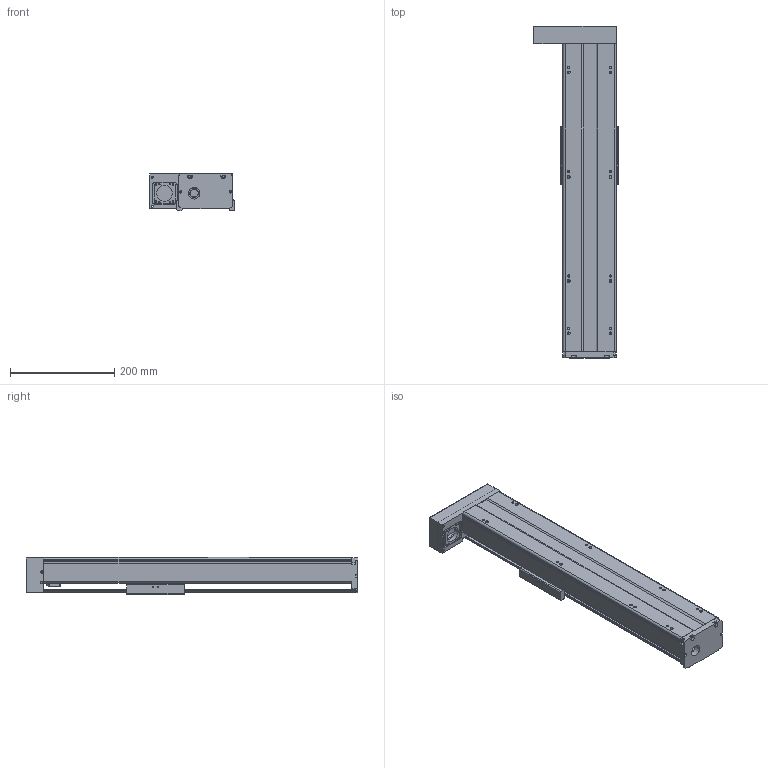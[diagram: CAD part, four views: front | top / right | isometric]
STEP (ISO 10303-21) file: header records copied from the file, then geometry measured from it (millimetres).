
FILE_DESCRIPTION(/* description */ (''),/* implementation_level */ '2;1');
FILE_NAME(/* name */ 'TKA100-FL-400_asm1.stp',/* time_stamp */ '2016-05-17T14:47:39+08:00',/* author */ (''),/* organization */ (''),/* preprocessor_version */ 'ST-DEVELOPER v15',/* originating_system */ 'SIEMENS PLM Software NX 8.5',/* authorisation */ '');
FILE_SCHEMA (('AUTOMOTIVE_DESIGN { 1 0 10303 214 3 1 1 1 }'));
Length unit declared in the file: millimetre
Products named in the file (3): 200-2; 200-1; TKA100-FL-400_asm1
Assembly tree (2 placements, depth 2):
  TKA100-FL-400_asm1
    200-1
    200-2
Bounding box: 162 x 636 x 71 mm (x, y, z)
Volume: 1491020.6 mm3; surface area: 509837.4 mm2
Topology: 2 solids, 16 shells, 784 faces, 2036 edges, 1323 vertices
Faces by surface type: plane 316, cylinder 295, cone 119, torus 28, bspline 26
Full cylindrical faces by diameter (mm): 2.5 x6, 2.6 x8, 3.3 x11, 3.4 x4, 3.8 x8, 4.2 x17, 4.3 x4, 4.5 x10, 5 x2, 5.5 x16, 6.6 x4, 8 x4, 9 x6, 10 x5, 11 x4, 12 x6, 15.3 x1, 16 x1, 22 x1, 24 x1, 28 x2, 30 x1, 33 x1
Entity records: 28903 total; most frequent: CARTESIAN_POINT 10637, DIRECTION 3739, ORIENTED_EDGE 3564, EDGE_CURVE 1782, AXIS2_PLACEMENT_3D 1469, VERTEX_POINT 1258, EDGE_LOOP 1075, LINE 801
